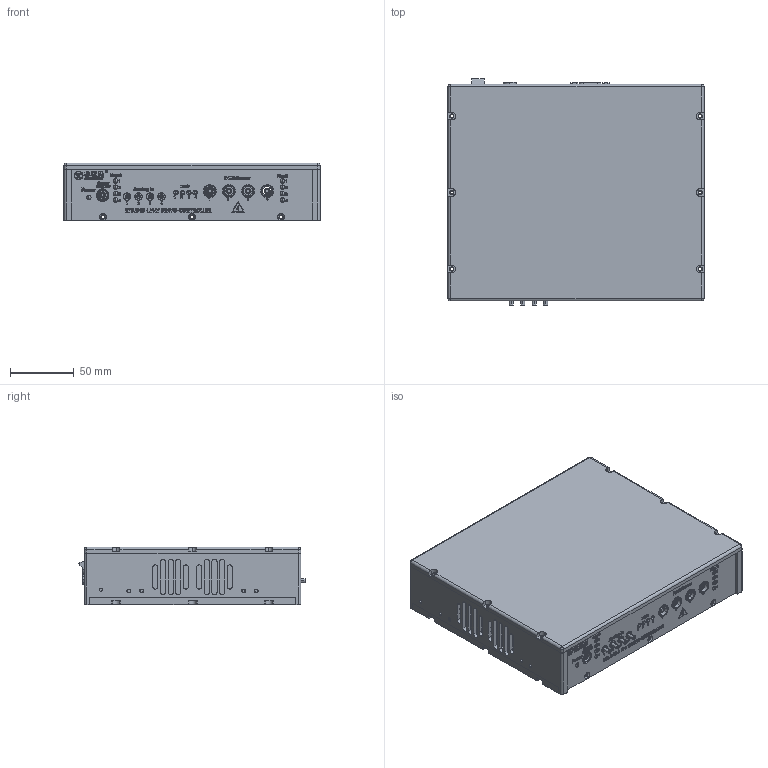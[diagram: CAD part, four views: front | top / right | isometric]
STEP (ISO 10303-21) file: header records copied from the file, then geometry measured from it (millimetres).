
FILE_DESCRIPTION (( 'STEP AP203' ), '1' );
FILE_NAME ('E70.D4S-L.STEP', '2025-07-15T00:58:23', ( 'China' ), ( 'Home' ), 'SwSTEP 2.0', 'SolidWorks 2016', '' );
FILE_SCHEMA (( 'CONFIG_CONTROL_DESIGN' ));
Products named in the file (1): E70.D4S-L
Bounding box: 201 x 177.49 x 45.5 mm (x, y, z)
Surface area: 186270.4 mm2 (no closed solid volume)
Topology: 0 solids, 130 shells, 1336 faces, 7612 edges, 6264 vertices
Faces by surface type: plane 634, cylinder 457, bspline 120, cone 82, sphere 30, torus 13
Entity records: 94241 total; most frequent: CARTESIAN_POINT 38230, DIRECTION 10413, ORIENTED_EDGE 9871, EDGE_CURVE 7562, VERTEX_POINT 6244, LINE 3997, VECTOR 3997, AXIS2_PLACEMENT_3D 3208
